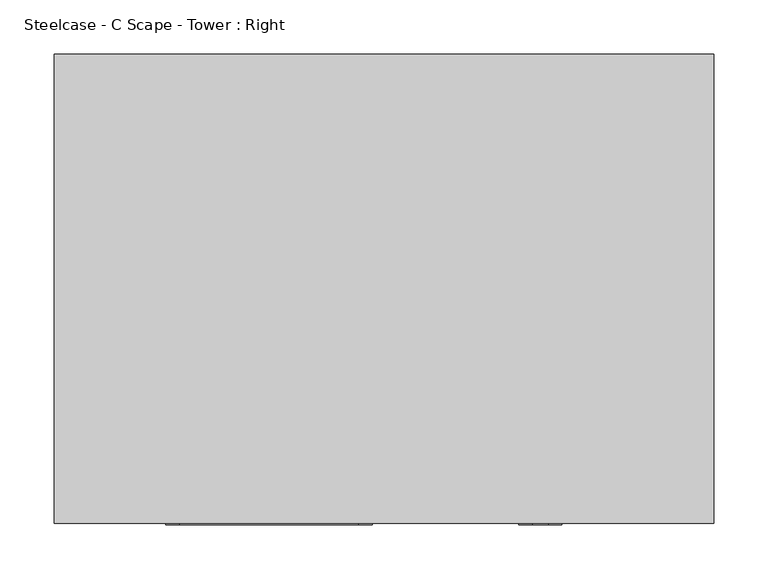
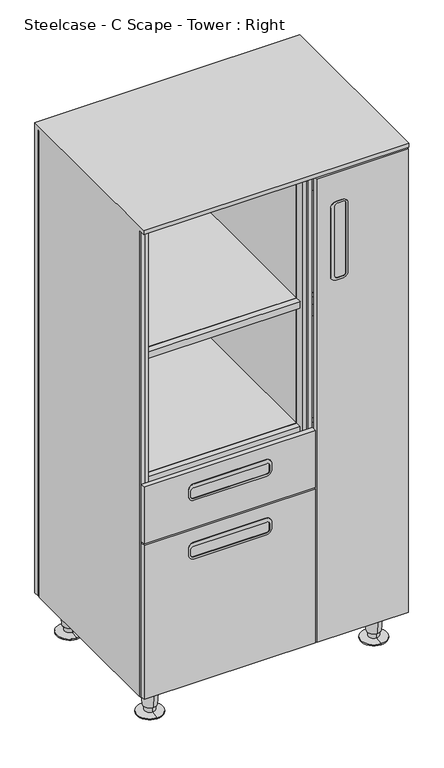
"""IFC4 building model written with IfcOpenShell, lengths in millimetres: furniture geometry, Steelcase - C Scape - Tower : Right."""

import ifcopenshell
import ifcopenshell.guid

model = None  # the IFC model being written
_history = None  # IfcOwnerHistory: only IFC2X3 demands one
_inside = {}  # id of a spatial element -> (the spatial element, [elements in it])
_under = {}  # id of a project, library or spatial element -> (it, [spatial elements below it])
_declared = {}  # id of a project -> (the project, [libraries it declares])
_typed = {}  # id of a type object -> (the type object, [elements of that type])
_made_of = {}  # id of a material, layer set ... -> (it, [elements and type objects made of it])


def new_model(schema):
    """Start an empty IFC model of exactly this schema.

    Asked for "IFC4X3", IfcOpenShell would pick the latest addendum, in which some entities
    have other attributes; the version numbers below select the first issue.
    IFC2X3 requires an IfcOwnerHistory on every rooted entity: one is made here for all.
    """
    global model, _history
    if schema == "IFC4X3":
        model = ifcopenshell.file(schema_version=(4, 3, 0, 0))
    else:
        model = ifcopenshell.file(schema=schema)
    _inside.clear()
    _under.clear()
    _declared.clear()
    _typed.clear()
    _made_of.clear()
    _history = None
    if model.schema == "IFC2X3":
        org = make("IfcOrganization", Name="unknown")
        user = make(
            "IfcPersonAndOrganization",
            ThePerson=make("IfcPerson", FamilyName="unknown"),
            TheOrganization=org,
        )
        app = make(
            "IfcApplication",
            ApplicationDeveloper=org,
            Version="unknown",
            ApplicationFullName="unknown",
            ApplicationIdentifier="unknown",
        )
        _history = make(
            "IfcOwnerHistory",
            OwningUser=user,
            OwningApplication=app,
            ChangeAction="ADDED",
            CreationDate=0,
        )
    return model


def make(cls, **values):
    """One entity of the class cls with the attributes given. An attribute that is None is left unset."""
    return model.create_entity(
        cls, **{name: value for name, value in values.items() if value is not None}
    )


def rooted(cls, **values):
    """An entity with a GlobalId (a new one), such as an element, a storey or a relation."""
    return make(cls, GlobalId=ifcopenshell.guid.new(), OwnerHistory=_history, **values)


def si_unit(unit_type, name, prefix=None):
    """IfcSIUnit, for example si_unit("LENGTHUNIT", "METRE", prefix="MILLI")."""
    return make("IfcSIUnit", UnitType=unit_type, Prefix=prefix, Name=name)


def assignment(units):
    """IfcUnitAssignment: the units of a project."""
    return None if units is None else make("IfcUnitAssignment", Units=units)


def point(xyz):
    """IfcCartesianPoint."""
    return None if xyz is None else make("IfcCartesianPoint", Coordinates=xyz)


def direction(xyz):
    """IfcDirection."""
    return None if xyz is None else make("IfcDirection", DirectionRatios=xyz)


def frame(location, z_axis=None, x_axis=None):
    """IfcAxis2Placement3D, a coordinate frame: its origin and axes. An axis left out is left unset."""
    return make(
        "IfcAxis2Placement3D",
        Location=point(location),
        Axis=direction(z_axis),
        RefDirection=direction(x_axis),
    )


def frame_2d(location, x_axis=None):
    """IfcAxis2Placement2D, a coordinate frame in the plane: its origin and x axis."""
    return make(
        "IfcAxis2Placement2D", Location=point(location), RefDirection=direction(x_axis)
    )


def origin():
    """The frame at (0, 0, 0) with its axes left unset."""
    return frame((0.0, 0.0, 0.0))


def place(relative_to, where):
    """IfcLocalPlacement: puts the frame where relative to a parent placement (None: the world)."""
    return make(
        "IfcLocalPlacement", PlacementRelTo=relative_to, RelativePlacement=where
    )


def context(
    kind, dimensions, precision=None, world=None, true_north=None, identifier=None
):
    """IfcGeometricRepresentationContext, for example the 3D "Model" context."""
    return make(
        "IfcGeometricRepresentationContext",
        ContextIdentifier=identifier,
        ContextType=kind,
        CoordinateSpaceDimension=dimensions,
        Precision=precision,
        WorldCoordinateSystem=world,
        TrueNorth=true_north,
    )


def project(units=None, contexts=None):
    """IfcProject with its units and contexts."""
    return rooted(
        "IfcProject",
        Name="project",
        RepresentationContexts=contexts,
        UnitsInContext=assignment(units),
    )


def spatial(cls, under=None, at=None, **own):
    """A site, building, storey or space (cls), placed at a placement, below another one or the project."""
    s = rooted(cls, ObjectPlacement=at, **own)
    if under is not None:
        _under.setdefault(under.id(), (under, []))[1].append(s)
    return s


def polyline(points):
    """IfcPolyline through the points."""
    return make("IfcPolyline", Points=[point(p) for p in points])


def circle_curve(where, radius):
    """IfcCircle in the frame where."""
    return make("IfcCircle", Position=where, Radius=radius)


def trimmed(basis, trim1, trim2, sense, master):
    """IfcTrimmedCurve: the piece of a basis curve between two trims."""
    return make(
        "IfcTrimmedCurve",
        BasisCurve=basis,
        Trim1=trim1,
        Trim2=trim2,
        SenseAgreement=sense,
        MasterRepresentation=master,
    )


def segment(curve, same_sense, transition):
    """IfcCompositeCurveSegment."""
    return make(
        "IfcCompositeCurveSegment",
        Transition=transition,
        SameSense=same_sense,
        ParentCurve=curve,
    )


def composite_curve(segments, self_intersect=None):
    """IfcCompositeCurve: segments joined end to end."""
    return make("IfcCompositeCurve", Segments=segments, SelfIntersect=self_intersect)


def outline(outer, holes=None, kind="AREA"):
    """IfcArbitraryClosedProfileDef: a profile drawn as a closed curve; with holes, ...WithVoids."""
    if holes is None:
        return make("IfcArbitraryClosedProfileDef", ProfileType=kind, OuterCurve=outer)
    return make(
        "IfcArbitraryProfileDefWithVoids",
        ProfileType=kind,
        OuterCurve=outer,
        InnerCurves=holes,
    )


def extrude(swept, where, along, depth):
    """IfcExtrudedAreaSolid: the profile swept, set in the frame where, extruded along a direction by depth."""
    return make(
        "IfcExtrudedAreaSolid",
        SweptArea=swept,
        Position=where,
        ExtrudedDirection=direction(along),
        Depth=depth,
    )


def faces_of(points, faces, orient=None, outer=None):
    """IfcFace entities. A face is a list of loops; a loop is a list of indices into points, from 0.

    orient and outer hold one flag for each loop. By default every Orientation is true, the
    first loop of a face is its IfcFaceOuterBound and the others are IfcFaceBound.
    """
    made = []
    for i, loops in enumerate(faces):
        bounds = []
        for j, loop in enumerate(loops):
            is_outer = j == 0 if outer is None else outer[i][j]
            bounds.append(
                make(
                    "IfcFaceOuterBound" if is_outer else "IfcFaceBound",
                    Bound=make("IfcPolyLoop", Polygon=[points[k] for k in loop]),
                    Orientation=True if orient is None else orient[i][j],
                )
            )
        made.append(make("IfcFace", Bounds=bounds))
    return made


def faceted_brep(points, faces, orient=None, outer=None, voids=None):
    """IfcFacetedBrep: a solid bounded by flat faces; with voids (closed shells), ...WithVoids."""
    shared = [point(p) for p in points]
    hull = make("IfcClosedShell", CfsFaces=faces_of(shared, faces, orient, outer))
    if voids is None:
        return make("IfcFacetedBrep", Outer=hull)
    return make(
        "IfcFacetedBrepWithVoids",
        Outer=hull,
        Voids=[
            make(cls, CfsFaces=faces_of(shared, fs, o, b)) for cls, fs, o, b in voids
        ],
    )


def shape(context_of_items, identifier, shape_type, items):
    """IfcShapeRepresentation: the items that make up one representation, for example the "Body"."""
    return make(
        "IfcShapeRepresentation",
        ContextOfItems=context_of_items,
        RepresentationIdentifier=identifier,
        RepresentationType=shape_type,
        Items=items,
    )


def source(mapping_origin, context_of_items, identifier, shape_type, items):
    """IfcRepresentationMap: a shape defined once, which mapped items show again and again."""
    return make(
        "IfcRepresentationMap",
        MappingOrigin=mapping_origin,
        MappedRepresentation=shape(context_of_items, identifier, shape_type, items),
    )


def transform(
    local_origin,
    x_axis=None,
    y_axis=None,
    z_axis=None,
    scale=None,
    scale2=None,
    scale3=None,
    uniform=True,
):
    """IfcCartesianTransformationOperator3D, or its non-uniform kind. x_axis, y_axis, z_axis: its Axis1, 2, 3."""
    if uniform:
        return make(
            "IfcCartesianTransformationOperator3D",
            Axis1=direction(x_axis),
            Axis2=direction(y_axis),
            LocalOrigin=point(local_origin),
            Scale=scale,
            Axis3=direction(z_axis),
        )
    return make(
        "IfcCartesianTransformationOperator3DnonUniform",
        Axis1=direction(x_axis),
        Axis2=direction(y_axis),
        LocalOrigin=point(local_origin),
        Scale=scale,
        Axis3=direction(z_axis),
        Scale2=scale2,
        Scale3=scale3,
    )


def mapped(mapping_source, mapping_target):
    """IfcMappedItem: shows the shape of a source again, moved by a transform."""
    return make(
        "IfcMappedItem", MappingSource=mapping_source, MappingTarget=mapping_target
    )


def made_of(thing, what):
    """Note that an element or type object is made of a material, layer set ...; save() writes the relation."""
    if what is not None:
        _made_of.setdefault(what.id(), (what, []))[1].append(thing)
    return thing


def element(
    cls,
    number,
    at=None,
    inside=None,
    cuts=None,
    type_object=None,
    material=None,
    context=None,
    identifier="Body",
    shape_type=None,
    held_by="IfcProductDefinitionShape",
    body=None,
    shapes=None,
    **own,
):
    """One element of the class cls, such as IfcWall. Its Tag is "e" and its number.

    at: its placement. inside: the storey or other place that contains it. cuts: it is an
    opening in that element (IfcRelVoidsElement). A single representation is given by context,
    identifier, shape_type and body (its items); several are given by shapes. held_by: the class
    of the entity that holds the representations. save() writes the other relations.
    """
    e = rooted(cls, Tag="e%d" % number, ObjectPlacement=at, **own)
    if body is not None:
        shapes = [shape(context, identifier, shape_type, body)]
    if shapes is not None:
        e.Representation = make(held_by, Representations=shapes)
    if inside is not None:
        _inside.setdefault(inside.id(), (inside, []))[1].append(e)
    if cuts is not None:
        rooted(
            "IfcRelVoidsElement", RelatingBuildingElement=cuts, RelatedOpeningElement=e
        )
    if type_object is not None:
        _typed.setdefault(type_object.id(), (type_object, []))[1].append(e)
    return made_of(e, material)


def aggregate(whole, parts):
    """IfcRelAggregates: a whole, such as a stair, and the parts it consists of."""
    return rooted("IfcRelAggregates", RelatingObject=whole, RelatedObjects=parts)


def save(model, path):
    """Write the relations noted so far, then the file.

    IfcRelAggregates (storeys below a building ...), IfcRelContainedInSpatialStructure (elements
    in a storey), IfcRelDefinesByType, IfcRelAssociatesMaterial and IfcRelDeclares: one each for
    every whole, place, type object, material and project.
    """
    for whole, parts in _under.values():
        aggregate(whole, parts)
    for where, things in _inside.values():
        rooted(
            "IfcRelContainedInSpatialStructure",
            RelatedElements=things,
            RelatingStructure=where,
        )
    for kind, things in _typed.values():
        rooted("IfcRelDefinesByType", RelatedObjects=things, RelatingType=kind)
    for what, things in _made_of.values():
        rooted("IfcRelAssociatesMaterial", RelatedObjects=things, RelatingMaterial=what)
    for by, libraries in _declared.values():
        rooted("IfcRelDeclares", RelatingContext=by, RelatedDefinitions=libraries)
    model.write(path)


def plane_surface(at):
    """IfcPlane: the flat surface through the origin of the frame at, square to its z axis."""
    return make("IfcPlane", Position=at)


def cylinder_surface(at, radius):
    """IfcCylindricalSurface: all points at the distance radius from the z axis of the frame at."""
    return make("IfcCylindricalSurface", Position=at, Radius=radius)


def revolved_surface(curve, axis_point, axis_direction):
    """IfcSurfaceOfRevolution: the curve turned about the line through axis_point along axis_direction."""
    return make(
        "IfcSurfaceOfRevolution",
        SweptCurve=make("IfcArbitraryOpenProfileDef", ProfileType="CURVE", Curve=curve),
        AxisPosition=make("IfcAxis1Placement", Location=point(axis_point), Axis=direction(axis_direction)),
    )


def advanced_brep(points, edges, surfaces, faces):
    """IfcAdvancedBrep: a solid bounded by faces that lie on surfaces and meet in shared edges.

    An edge is (start, end): straight between two places in points (the first is 0);
    or (start, end, curve); or (start, end, curve, False) where it runs against its curve.
    A face is (place in surfaces, loops), or (place, loops, False) where it looks against
    its surface's normal. A loop lists edges by number (the first is 1), with a minus sign
    where the edge is run from its end to its start. The first loop is the outer one.
    """
    corners = [point(p) for p in points]
    vertices = [make("IfcVertexPoint", VertexGeometry=c) for c in corners]
    made = []
    for start, end, *more in edges:
        made.append(
            make(
                "IfcEdgeCurve",
                EdgeStart=vertices[start],
                EdgeEnd=vertices[end],
                EdgeGeometry=more[0] if more else make("IfcPolyline", Points=[corners[start], corners[end]]),
                SameSense=more[1] if len(more) > 1 else True,
            )
        )
    hull = []
    for where, loops, *sense in faces:
        bounds = []
        for j, loop in enumerate(loops):
            ring = [make("IfcOrientedEdge", EdgeElement=made[abs(k) - 1], Orientation=k > 0) for k in loop]
            bounds.append(
                make(
                    "IfcFaceOuterBound" if j == 0 else "IfcFaceBound",
                    Bound=make("IfcEdgeLoop", EdgeList=ring),
                    Orientation=True,
                )
            )
        hull.append(make("IfcAdvancedFace", Bounds=bounds, FaceSurface=surfaces[where], SameSense=sense[0] if sense else True))
    return make("IfcAdvancedBrep", Outer=make("IfcClosedShell", CfsFaces=hull))


def steelcase_c_scape_tower_right_c0f2066f(model_context):
    return source(origin(), model_context, "Body", "SolidModel", [
        extrude(outline(polyline([(11.4553938, -397.129), (21.4631163, -397.129), (21.4631163, -412.115), (9.415402, -419.3540543), (0.2711927, -419.3540543), (0.2711927, -414.9089767), (11.4553938, -414.9089767), (11.4553938, -397.129)])), frame((0.0, 0.0, 76.2), z_axis=(0.0, 0.0, 1.0), x_axis=(1.0, 0.0, 0.0)), (0.0, 0.0, 1.0), 1132.84),
        extrude(outline(polyline([(595.3505674, -397.129), (595.3505674, -414.9089767), (606.5347685, -414.9089767), (606.5347685, -419.3540543), (597.3905592, -419.3540543), (585.342845, -412.115), (585.342845, -397.129), (595.3505674, -397.129)])), frame((0.0, 0.0, 76.2), z_axis=(0.0, 0.0, 1.0), x_axis=(1.0, 0.0, 0.0)), (0.0, 0.0, 1.0), 1132.84),
        extrude(outline(polyline([(11.4553938, -35.9409322), (11.4553938, -18.1609554), (0.2711927, -18.1609554), (0.2711927, -13.7158779), (9.415402, -13.7158779), (21.4631163, -20.9549322), (21.4631163, -35.9409322), (11.4553938, -35.9409322)])), frame((0.0, 0.0, 76.2), z_axis=(0.0, 0.0, 1.0), x_axis=(1.0, 0.0, 0.0)), (0.0, 0.0, 1.0), 1132.84),
        extrude(outline(polyline([(595.3505674, -35.9409322), (585.342845, -35.9409322), (585.342845, -20.9549322), (597.3905592, -13.7158779), (606.5347685, -13.7158779), (606.5347685, -18.1609554), (595.3505674, -18.1609554), (595.3505674, -35.9409322)])), frame((0.0, 0.0, 76.2), z_axis=(0.0, 0.0, 1.0), x_axis=(1.0, 0.0, 0.0)), (0.0, 0.0, 1.0), 1132.84),
        faceted_brep([(607.695, 0.0, 1219.2), (-0.635, 0.0, 1219.2), (-0.635, -433.0699322, 1219.2), (607.695, -433.0699322, 1219.2), (607.695, -433.0699322, 1209.04), (-0.635, -433.0699322, 1209.04), (-0.635, -414.9089767, 1209.04), (11.4553938, -414.9089767, 1209.04), (11.4553938, -397.129, 1209.04), (21.5898062, -397.129, 1209.04), (21.5898062, -35.941, 1209.04), (11.4553938, -35.941, 1209.04), (11.4553938, -18.1610281, 1209.04), (-0.635, -18.1610281, 1209.04), (-0.635, -10.540999, 1209.04), (607.695, -10.540999, 1209.04), (607.695, -18.1610281, 1209.04), (595.3505674, -18.1610281, 1209.04), (595.3505674, -35.941, 1209.04), (585.3431163, -35.941, 1209.04), (585.3431163, -397.129, 1209.04), (595.3505674, -397.129, 1209.04), (595.3505674, -414.9089767, 1209.04), (607.695, -414.9089767, 1209.04), (607.822, 0.0, 76.2), (-0.508, 0.0, 76.2), (-0.635, -10.540999, 76.2), (-0.635, -18.1610281, 76.2), (-0.635, -414.9089767, 76.2), (607.695, -414.9089767, 76.2), (607.695, -18.1610281, 76.2), (607.695, -10.540999, 76.2), (11.4553938, -18.1610281, 76.2), (11.4553938, -35.941, 76.2), (21.5898062, -35.941, 76.2), (21.5898062, -397.129, 76.2), (11.4553938, -397.129, 76.2), (11.4553938, -414.9089767, 76.2), (595.3505674, -18.1610281, 76.2), (595.3505674, -414.9089767, 76.2), (595.3505674, -397.129, 76.2), (585.3431163, -397.129, 76.2), (585.3431163, -35.941, 76.2), (595.3505674, -35.941, 76.2)], [[[0, 1, 2, 3]], [[4, 5, 6, 7, 8, 9, 10, 11, 12, 13, 14, 15, 16, 17, 18, 19, 20, 21, 22, 23]], [[1, 0, 24, 25]], [[2, 1, 25, 26, 14, 13, 27, 28, 6, 5]], [[3, 2, 5, 4]], [[24, 0, 3, 4, 23, 29, 30, 16, 15, 31]], [[32, 33, 34, 35, 36, 37, 28, 27]], [[38, 30, 29, 39, 40, 41, 42, 43]], [[32, 27, 13, 12]], [[28, 37, 7, 6]], [[37, 36, 8, 7]], [[36, 35, 9, 8]], [[35, 34, 10, 9]], [[34, 33, 11, 10]], [[33, 32, 12, 11]], [[38, 43, 18, 17]], [[43, 42, 19, 18]], [[42, 41, 20, 19]], [[41, 40, 21, 20]], [[40, 39, 22, 21]], [[39, 29, 23, 22]], [[30, 38, 17, 16]], [[24, 31, 26, 25]], [[26, 31, 15, 14]]]),
        extrude(outline(composite_curve([segment(trimmed(circle_curve(frame_2d((394.970453, 279.9224102)), 12.7), [point((382.270453, 279.9224102))], [point((394.970453, 292.6224102))], False, "CARTESIAN"), True, "CONTINUOUS"), segment(polyline([(394.970453, 292.6224102), (409.5749879, 292.6224102)]), True, "CONTINUOUS"), segment(trimmed(circle_curve(frame_2d((409.5749879, 279.9224102)), 12.7), [point((409.5749879, 292.6224102))], [point((422.2749879, 279.9224102))], False, "CARTESIAN"), True, "CONTINUOUS"), segment(polyline([(422.2749879, 279.9224102), (422.2749879, 114.8223618)]), True, "CONTINUOUS"), segment(trimmed(circle_curve(frame_2d((409.5749879, 114.8223618)), 12.7), [point((422.2749879, 114.8223618))], [point((409.5749879, 102.1223618))], False, "CARTESIAN"), True, "CONTINUOUS"), segment(polyline([(409.5749879, 102.1223618), (394.970453, 102.1223618)]), True, "CONTINUOUS"), segment(trimmed(circle_curve(frame_2d((394.970453, 114.8223618)), 12.7), [point((394.970453, 102.1223618))], [point((382.270453, 114.8223618))], False, "CARTESIAN"), True, "CONTINUOUS"), segment(polyline([(382.270453, 114.8223618), (382.270453, 279.9224102)]), True, "CONTINUOUS")], self_intersect=False), holes=[composite_curve([segment(trimmed(circle_curve(frame_2d((406.146515, 281.4463966)), 6.35), [point((412.496515, 281.4463966))], [point((406.146515, 287.7963966))], True, "CARTESIAN"), True, "CONTINUOUS"), segment(polyline([(406.146515, 287.7963966), (393.4463212, 287.7963966)]), True, "CONTINUOUS"), segment(trimmed(circle_curve(frame_2d((393.4463212, 281.4463966)), 6.35), [point((393.4463212, 287.7963966))], [point((387.0963212, 281.4463966))], True, "CARTESIAN"), True, "CONTINUOUS"), segment(polyline([(387.0963212, 281.4463966), (387.0963212, 113.2983753)]), True, "CONTINUOUS"), segment(trimmed(circle_curve(frame_2d((393.4463212, 113.2983753)), 6.35), [point((387.0963212, 113.2983753))], [point((393.4463212, 106.9483753))], True, "CARTESIAN"), True, "CONTINUOUS"), segment(polyline([(393.4463212, 106.9483753), (406.146515, 106.9483753)]), True, "CONTINUOUS"), segment(trimmed(circle_curve(frame_2d((406.146515, 113.2983753)), 6.35), [point((406.146515, 106.9483753))], [point((412.496515, 113.2983753))], True, "CARTESIAN"), True, "CONTINUOUS"), segment(polyline([(412.496515, 113.2983753), (412.496515, 281.4463966)]), True, "CONTINUOUS")], self_intersect=False)]), frame((0.0, -434.3400581, 0.0), z_axis=(0.0, 1.0, 0.0), x_axis=(0.0, 0.0, 1.0)), (0.0, 0.0, 1.0), 1.270126),
        extrude(outline(composite_curve([segment(trimmed(circle_curve(frame_2d((537.2104627, 279.9224102)), 12.7), [point((524.5104627, 279.9224102))], [point((537.2104627, 292.6224102))], False, "CARTESIAN"), True, "CONTINUOUS"), segment(polyline([(537.2104627, 292.6224102), (551.8149976, 292.6224102)]), True, "CONTINUOUS"), segment(trimmed(circle_curve(frame_2d((551.8149976, 279.9224102)), 12.7), [point((551.8149976, 292.6224102))], [point((564.5149976, 279.9224102))], False, "CARTESIAN"), True, "CONTINUOUS"), segment(polyline([(564.5149976, 279.9224102), (564.5149976, 114.8223618)]), True, "CONTINUOUS"), segment(trimmed(circle_curve(frame_2d((551.8149976, 114.8223618)), 12.7), [point((564.5149976, 114.8223618))], [point((551.8149976, 102.1223618))], False, "CARTESIAN"), True, "CONTINUOUS"), segment(polyline([(551.8149976, 102.1223618), (537.2104627, 102.1223618)]), True, "CONTINUOUS"), segment(trimmed(circle_curve(frame_2d((537.2104627, 114.8223618)), 12.7), [point((537.2104627, 102.1223618))], [point((524.5104627, 114.8223618))], False, "CARTESIAN"), True, "CONTINUOUS"), segment(polyline([(524.5104627, 114.8223618), (524.5104627, 279.9224102)]), True, "CONTINUOUS")], self_intersect=False), holes=[composite_curve([segment(trimmed(circle_curve(frame_2d((548.3865247, 281.4463966)), 6.35), [point((554.7365247, 281.4463966))], [point((548.3865247, 287.7963966))], True, "CARTESIAN"), True, "CONTINUOUS"), segment(polyline([(548.3865247, 287.7963966), (535.6863309, 287.7963966)]), True, "CONTINUOUS"), segment(trimmed(circle_curve(frame_2d((535.6863309, 281.4463966)), 6.35), [point((535.6863309, 287.7963966))], [point((529.3363309, 281.4463966))], True, "CARTESIAN"), True, "CONTINUOUS"), segment(polyline([(529.3363309, 281.4463966), (529.3363309, 113.2983753)]), True, "CONTINUOUS"), segment(trimmed(circle_curve(frame_2d((535.6863309, 113.2983753)), 6.35), [point((529.3363309, 113.2983753))], [point((535.6863309, 106.9483753))], True, "CARTESIAN"), True, "CONTINUOUS"), segment(polyline([(535.6863309, 106.9483753), (548.3865247, 106.9483753)]), True, "CONTINUOUS"), segment(trimmed(circle_curve(frame_2d((548.3865247, 113.2983753)), 6.35), [point((548.3865247, 106.9483753))], [point((554.7365247, 113.2983753))], True, "CARTESIAN"), True, "CONTINUOUS"), segment(polyline([(554.7365247, 113.2983753), (554.7365247, 281.4463966)]), True, "CONTINUOUS")], self_intersect=False)]), frame((0.0, -434.3400581, 0.0), z_axis=(0.0, 1.0, 0.0), x_axis=(0.0, 0.0, 1.0)), (0.0, 0.0, 1.0), 1.270126),
        extrude(outline(polyline([(393.0646434, -422.5290058), (393.0646434, -433.0699322), (0.127, -433.0699322), (0.127, -422.5290058), (393.0646434, -422.5290058)])), frame((0.0, 0.0, 79.374997), z_axis=(0.0, 0.0, 1.0), x_axis=(1.0, 0.0, 0.0)), (0.0, 0.0, 1.0), 374.6500151),
        extrude(outline(polyline([(393.0646434, -422.5290058), (393.0646434, -433.0699322), (0.127, -433.0699322), (0.127, -422.5290058), (393.0646434, -422.5290058)])), frame((0.0, 0.0, 457.2), z_axis=(0.0, 0.0, 1.0), x_axis=(1.0, 0.0, 0.0)), (0.0, 0.0, 1.0), 139.0649855),
        extrude(outline(polyline([(606.933, -422.5290058), (606.933, -433.0699322), (396.2398527, -433.0699322), (396.2398527, -422.5290058), (606.933, -422.5290058)])), frame((0.0, 0.0, 79.374997), z_axis=(0.0, 0.0, 1.0), x_axis=(1.0, 0.0, 0.0)), (0.0, 0.0, 1.0), 1126.4899885),
        faceted_brep([(21.5898062, -397.129, 92.7100024), (21.5898062, -35.941, 92.7100024), (21.5898062, -35.941, 76.2), (21.5898062, -397.129, 76.2), (21.5898062, -397.1289574, 903.7827702), (21.5898062, -35.941, 903.7827702), (21.5898062, -35.941, 887.2727411), (21.5898062, -397.1289574, 887.2727411), (21.5898062, -397.129, 599.4400097), (21.5898062, -35.941, 599.4400097), (21.5898062, -35.941, 583.8444137), (21.5898062, -397.129, 583.8444137), (585.4699225, -397.129, 92.7100024), (585.4699225, -397.129, 76.2), (585.4699225, -35.941, 76.2), (585.4699225, -35.941, 92.7100024), (585.4699225, -397.1289574, 903.7827702), (585.4699225, -397.1289574, 887.2727411), (585.4699225, -35.941, 887.2727411), (585.4699225, -35.941, 903.7827702), (585.4699225, -397.129, 599.4400097), (585.4699225, -397.129, 583.8444137), (585.4699225, -35.941, 583.8444137), (585.4699225, -35.941, 599.4400097), (370.967, -397.129, 92.7100024), (370.967, -35.941, 92.7100024), (393.1918062, -35.941, 92.7100024), (393.1918062, -397.129, 92.7100024), (393.1918062, -397.129, 583.8444137), (393.1918062, -397.129, 599.4400097), (393.1918062, -397.129, 887.2727411), (393.1918062, -397.129, 903.7827702), (393.1918062, -397.129, 1192.5299709), (370.967, -397.129, 1192.5299709), (370.967, -397.129, 903.7827702), (370.967, -397.129, 887.2727411), (370.967, -397.129, 599.4400097), (370.967, -397.129, 583.8444137), (370.967, -35.941, 903.7827702), (393.1918062, -35.941, 903.7827702), (370.967, -35.941, 887.2727411), (393.1918062, -35.941, 887.2727411), (370.967, -35.941, 599.4400097), (393.1918062, -35.941, 599.4400097), (370.967, -35.941, 583.8444137), (393.1918062, -35.941, 583.8444137), (393.1918062, -18.1610281, 1192.5299709), (370.967, -18.1610281, 1192.5299709), (370.967, -18.1610281, 92.7100024), (393.1918062, -18.1610281, 92.7100024)], [[[0, 1, 2, 3]], [[4, 5, 6, 7]], [[8, 9, 10, 11]], [[12, 13, 14, 15]], [[16, 17, 18, 19]], [[20, 21, 22, 23]], [[1, 0, 24, 25]], [[12, 15, 26, 27]], [[2, 1, 25, 26, 15, 14]], [[3, 2, 14, 13]], [[0, 3, 13, 12, 27, 28, 21, 20, 29, 30, 17, 16, 31, 32, 33, 34, 4, 7, 35, 36, 8, 11, 37, 24]], [[5, 4, 34, 38]], [[16, 19, 39, 31]], [[6, 5, 38, 40]], [[19, 18, 41, 39]], [[7, 6, 40, 35]], [[18, 17, 30, 41]], [[9, 8, 36, 42]], [[20, 23, 43, 29]], [[10, 9, 42, 44]], [[23, 22, 45, 43]], [[11, 10, 44, 37]], [[22, 21, 28, 45]], [[46, 47, 33, 32]], [[48, 49, 26, 25]], [[47, 46, 49, 48]], [[33, 47, 48, 25, 24, 37, 44, 42, 36, 35, 40, 38, 34]], [[46, 32, 31, 39, 41, 30, 29, 43, 45, 28, 27, 26, 49]]]),
        faceted_brep([(585.47, -35.9409109, 1209.0400097), (585.47, -35.9409109, 1192.5299806), (585.47, -21.7168217, 1192.5299806), (585.47, -21.7168217, 1209.0400097), (21.5898062, -35.9409109, 1209.0400097), (21.5898062, -21.7168217, 1209.0400097), (21.5898062, -21.7168217, 1192.5299806), (21.5898062, -35.9409109, 1192.5299806)], [[[0, 1, 2, 3]], [[4, 5, 6, 7]], [[1, 0, 4, 7]], [[2, 1, 7, 6]], [[3, 2, 6, 5]], [[0, 3, 5, 4]]]),
        faceted_brep([(585.47, -411.3529438, 1209.0400097), (585.47, -411.3529438, 1192.5299806), (585.47, -397.1289574, 1192.5299806), (585.47, -397.1289574, 1209.0400097), (585.47, -411.3529438, 599.4400097), (585.47, -411.3529438, 583.8444137), (585.47, -397.1289574, 583.8444137), (585.47, -397.1289574, 599.4400097), (585.47, -411.3529438, 92.7100024), (585.47, -411.3529438, 76.2), (585.47, -397.1289574, 76.2), (585.47, -397.1289574, 92.7100024), (585.47, -411.3529438, 903.7827702), (585.47, -411.3529438, 887.2727411), (585.47, -397.1289574, 887.2727411), (585.47, -397.1289574, 903.7827702), (21.5898062, -411.3529438, 1209.0400097), (21.5898062, -397.1289574, 1209.0400097), (21.5898062, -397.1289574, 1192.5299806), (21.5898062, -411.3529438, 1192.5299806), (21.5898062, -411.3529438, 599.4400097), (21.5898062, -397.1289574, 599.4400097), (21.5898062, -397.1289574, 583.8444137), (21.5898062, -411.3529438, 583.8444137), (21.5898062, -411.3529438, 92.7100024), (21.5898062, -397.1289574, 92.7100024), (21.5898062, -397.1289574, 76.2), (21.5898062, -411.3529438, 76.2), (21.5898062, -411.3529438, 903.7827702), (21.5898062, -397.1289574, 903.7827702), (21.5898062, -397.1289574, 887.2727411), (21.5898062, -411.3529438, 887.2727411), (393.1918062, -411.3529438, 1209.0400097), (393.1918062, -411.3529438, 1192.5299806), (370.967, -411.3529438, 1192.5299806), (370.967, -411.3529438, 1209.0400097), (393.1918062, -397.1289574, 1192.5299806), (370.967, -397.1289574, 1192.5299806), (393.1918062, -397.1289574, 903.7827702), (393.1918062, -397.1289574, 887.2727411), (393.1918062, -397.1289574, 599.4400097), (393.1918062, -397.1289574, 583.8444137), (393.1918062, -397.1289574, 92.71), (370.967, -397.1289574, 92.7100024), (370.967, -397.1289574, 583.8444137), (370.967, -397.1289574, 599.4400097), (370.967, -397.1289574, 887.2727411), (370.967, -397.1289574, 903.7827702), (370.967, -419.3540543, 1209.0400097), (380.653618, -419.3540543, 1209.0400097), (382.0794031, -418.5308579, 1209.0400097), (383.5051882, -419.3540543, 1209.0400097), (393.1918062, -419.3540543, 1209.0400097), (393.1918062, -411.3529438, 599.4400097), (393.1918062, -411.3529438, 583.8444137), (370.967, -411.3529438, 583.8444137), (370.967, -411.3529438, 599.4400097), (393.1918062, -411.3529438, 92.7100024), (370.967, -411.3529438, 92.71), (393.1918062, -411.3529438, 903.7827702), (393.1918062, -411.3529438, 887.2727411), (370.967, -411.3529438, 887.2727411), (370.967, -411.3529438, 903.7827702), (393.1918062, -419.3540543, 92.71), (383.5051882, -419.3540543, 92.71), (382.0794031, -418.5308579, 92.71), (380.653618, -419.3540543, 92.71), (370.967, -419.3540543, 92.71)], [[[0, 1, 2, 3]], [[4, 5, 6, 7]], [[8, 9, 10, 11]], [[12, 13, 14, 15]], [[16, 17, 18, 19]], [[20, 21, 22, 23]], [[24, 25, 26, 27]], [[28, 29, 30, 31]], [[1, 0, 32, 33]], [[16, 19, 34, 35]], [[2, 1, 33, 36]], [[19, 18, 37, 34]], [[17, 3, 2, 36, 38, 15, 14, 39, 40, 7, 6, 41, 42, 11, 10, 26, 25, 43, 44, 22, 21, 45, 46, 30, 29, 47, 37, 18]], [[0, 3, 17, 16, 35, 48, 49, 50, 51, 52, 32]], [[5, 4, 53, 54]], [[20, 23, 55, 56]], [[6, 5, 54, 41]], [[23, 22, 44, 55]], [[4, 7, 40, 53]], [[21, 20, 56, 45]], [[9, 8, 57, 58, 24, 27]], [[10, 9, 27, 26]], [[8, 11, 42, 57]], [[25, 24, 58, 43]], [[13, 12, 59, 60]], [[28, 31, 61, 62]], [[14, 13, 60, 39]], [[31, 30, 46, 61]], [[12, 15, 38, 59]], [[29, 28, 62, 47]], [[63, 64, 65, 66, 67, 58, 57]], [[48, 35, 34, 37, 47, 62, 61, 46, 45, 56, 55, 44, 43, 58, 67]], [[64, 51, 50, 65]], [[52, 51, 64, 63]], [[32, 52, 63, 57, 42, 41, 54, 53, 40, 39, 60, 59, 38, 36, 33]], [[49, 48, 67, 66]], [[49, 66, 65, 50]]]),
        faceted_brep([(585.47, -35.9409109, 599.4400097), (585.47, -35.9409109, 583.8444137), (585.47, -21.7168217, 583.8444137), (585.47, -21.7168217, 599.4400097), (21.5898062, -35.9409109, 599.4400097), (21.5898062, -21.7168217, 599.4400097), (21.5898062, -21.7168217, 583.8444137), (21.5898062, -35.9409109, 583.8444137)], [[[0, 1, 2, 3]], [[4, 5, 6, 7]], [[1, 0, 4, 7]], [[2, 1, 7, 6]], [[3, 2, 6, 5]], [[0, 3, 5, 4]]]),
        faceted_brep([(585.47, -35.9409109, 92.7100024), (585.47, -35.9409109, 76.2), (585.47, -21.7168217, 76.2), (585.47, -21.7168217, 92.7100024), (21.5898062, -35.9409109, 92.7100024), (21.5898062, -21.7168217, 92.7100024), (21.5898062, -21.7168217, 76.2), (21.5898062, -35.9409109, 76.2)], [[[0, 1, 2, 3]], [[4, 5, 6, 7]], [[1, 0, 4, 7]], [[2, 1, 7, 6]], [[3, 2, 6, 5]], [[0, 3, 5, 4]]]),
        faceted_brep([(585.47, -35.9409109, 903.7827702), (585.47, -35.9409109, 887.2727411), (585.47, -21.7168217, 887.2727411), (585.47, -21.7168217, 903.7827702), (21.5898062, -35.9409109, 903.7827702), (21.5898062, -21.7168217, 903.7827702), (21.5898062, -21.7168217, 887.2727411), (21.5898062, -35.9409109, 887.2727411)], [[[0, 1, 2, 3]], [[4, 5, 6, 7]], [[1, 0, 4, 7]], [[2, 1, 7, 6]], [[3, 2, 6, 5]], [[0, 3, 5, 4]]]),
        extrude(outline(composite_curve([segment(polyline([(958.2149855, 467.7409147), (1123.3150339, 467.7409147)]), True, "CONTINUOUS"), segment(trimmed(circle_curve(frame_2d((1123.3150339, 455.0409147)), 12.7), [point((1123.3150339, 467.7409147))], [point((1136.0150339, 455.0409147))], False, "CARTESIAN"), True, "CONTINUOUS"), segment(polyline([(1136.0150339, 455.0409147), (1136.0150339, 440.4363798)]), True, "CONTINUOUS"), segment(trimmed(circle_curve(frame_2d((1123.3150339, 440.4363798)), 12.7), [point((1136.0150339, 440.4363798))], [point((1123.3150339, 427.7363798))], False, "CARTESIAN"), True, "CONTINUOUS"), segment(polyline([(1123.3150339, 427.7363798), (958.2149855, 427.7363798)]), True, "CONTINUOUS"), segment(trimmed(circle_curve(frame_2d((958.2149855, 440.4363798)), 12.7), [point((958.2149855, 427.7363798))], [point((945.5149855, 440.4363798))], False, "CARTESIAN"), True, "CONTINUOUS"), segment(polyline([(945.5149855, 440.4363798), (945.5149855, 455.0409147)]), True, "CONTINUOUS"), segment(trimmed(circle_curve(frame_2d((958.2149855, 455.0409147)), 12.7), [point((945.5149855, 455.0409147))], [point((958.2149855, 467.7409147))], False, "CARTESIAN"), True, "CONTINUOUS")], self_intersect=False), holes=[composite_curve([segment(polyline([(956.690999, 437.5148527), (1124.8390203, 437.5148527)]), True, "CONTINUOUS"), segment(trimmed(circle_curve(frame_2d((1124.8390203, 443.8648527)), 6.35), [point((1124.8390203, 437.5148527))], [point((1131.1890203, 443.8648527))], True, "CARTESIAN"), True, "CONTINUOUS"), segment(polyline([(1131.1890203, 443.8648527), (1131.1890203, 456.5650465)]), True, "CONTINUOUS"), segment(trimmed(circle_curve(frame_2d((1124.8390203, 456.5650465)), 6.35), [point((1131.1890203, 456.5650465))], [point((1124.8390203, 462.9150465))], True, "CARTESIAN"), True, "CONTINUOUS"), segment(polyline([(1124.8390203, 462.9150465), (956.690999, 462.9150465)]), True, "CONTINUOUS"), segment(trimmed(circle_curve(frame_2d((956.690999, 456.5650465)), 6.35), [point((956.690999, 462.9150465))], [point((950.340999, 456.5650465))], True, "CARTESIAN"), True, "CONTINUOUS"), segment(polyline([(950.340999, 456.5650465), (950.340999, 443.8648527)]), True, "CONTINUOUS"), segment(trimmed(circle_curve(frame_2d((956.690999, 443.8648527)), 6.35), [point((950.340999, 443.8648527))], [point((956.690999, 437.5148527))], True, "CARTESIAN"), True, "CONTINUOUS")], self_intersect=False)]), frame((0.0, -434.3400581, 0.0), z_axis=(0.0, 1.0, 0.0), x_axis=(0.0, 0.0, 1.0)), (0.0, 0.0, 1.0), 1.270126),
        advanced_brep(
        [(560.3960034, -27.3797531, 0.0), (560.3960034, -86.6051932, 0.0), (560.3960034, -56.9924731, 0.0), (560.3960034, -27.3797531, 2.6912335), (560.3960034, -86.6051932, 2.6912335), (560.3960034, -45.0348855, 5.8043097), (560.3960034, -68.9500608, 5.8043097), (560.3960034, -44.3407082, 19.05), (560.3960034, -69.6442381, 19.05), (560.3960034, -41.6146125, 19.05), (560.3960034, -72.3703338, 19.05), (560.3960034, -37.6182952, 76.2), (560.3960034, -76.3666511, 76.2), (560.3960034, -56.9924731, 76.2)],
        [
            (0, 1, circle_curve(frame((560.3960034, -56.9924731, 0.0), z_axis=(0.0, 0.0, -1.0), x_axis=(0.0, -1.0, 0.0)), 29.61272)),
            (1, 2),
            (2, 0),
            (1, 0, circle_curve(frame((560.3960034, -56.9924731, 0.0), z_axis=(0.0, 0.0, -1.0), x_axis=(0.0, -1.0, 0.0)), 29.61272)),
            (3, 4, circle_curve(frame((560.3960034, -56.9924731, 2.6912335), z_axis=(0.0, 0.0, -1.0), x_axis=(0.0, -1.0, 0.0)), 29.61272)),
            (4, 1),
            (0, 3),
            (4, 3, circle_curve(frame((560.3960034, -56.9924731, 2.6912335), z_axis=(0.0, 0.0, -1.0), x_axis=(0.0, -1.0, 0.0)), 29.61272)),
            (5, 6, circle_curve(frame((560.3960034, -56.9924731, 5.8043097), z_axis=(0.0, 0.0, -1.0), x_axis=(0.0, -1.0, 0.0)), 11.9575877)),
            (6, 4),
            (3, 5),
            (6, 5, circle_curve(frame((560.3960034, -56.9924731, 5.8043097), z_axis=(0.0, 0.0, -1.0), x_axis=(0.0, -1.0, 0.0)), 11.9575877)),
            (7, 8, circle_curve(frame((560.3960034, -56.9924731, 19.05), z_axis=(0.0, 0.0, -1.0), x_axis=(0.0, -1.0, 0.0)), 12.6517649)),
            (8, 6),
            (5, 7),
            (8, 7, circle_curve(frame((560.3960034, -56.9924731, 19.05), z_axis=(0.0, 0.0, -1.0), x_axis=(0.0, -1.0, 0.0)), 12.6517649)),
            (9, 10, circle_curve(frame((560.3960034, -56.9924731, 19.05), z_axis=(0.0, 0.0, -1.0), x_axis=(0.0, -1.0, 0.0)), 15.3778607)),
            (10, 8),
            (7, 9),
            (10, 9, circle_curve(frame((560.3960034, -56.9924731, 19.05), z_axis=(0.0, 0.0, -1.0), x_axis=(0.0, -1.0, 0.0)), 15.3778607)),
            (11, 12, circle_curve(frame((560.3960034, -56.9924731, 76.2), z_axis=(0.0, 0.0, -1.0), x_axis=(0.0, -1.0, 0.0)), 19.374178)),
            (12, 10),
            (9, 11),
            (12, 11, circle_curve(frame((560.3960034, -56.9924731, 76.2), z_axis=(0.0, 0.0, -1.0), x_axis=(0.0, -1.0, 0.0)), 19.374178)),
            (13, 12),
            (11, 13),
        ],
        [
            plane_surface(frame((560.3960034, -56.9924731, 0.0), z_axis=(0.0, 0.0, -1.0), x_axis=(0.0, -1.0, 0.0))),
            cylinder_surface(frame((560.3960034, -56.9924731, -7.7422201), z_axis=(0.0, 0.0, 1.0), x_axis=(0.0, -1.0, 0.0)), 29.61272),
            revolved_surface(polyline([(560.3960034, -86.6051932, 2.6912335), (560.3960034, -68.9500608, 5.8043097)]), (560.3960034, -56.9924731, -7.7422201), (0.0, 0.0, 1.0)),
            revolved_surface(polyline([(560.3960034, -68.9500608, 5.8043097), (560.3960034, -69.6442381, 19.05)]), (560.3960034, -56.9924731, -7.7422201), (0.0, 0.0, 1.0)),
            plane_surface(frame((560.3960034, -56.9924731, 19.05), z_axis=(0.0, 0.0, -1.0), x_axis=(0.0, -1.0, 0.0))),
            revolved_surface(polyline([(560.3960034, -72.3703338, 19.05), (560.3960034, -76.3666511, 76.2)]), (560.3960034, -56.9924731, -7.7422201), (0.0, 0.0, 1.0)),
            plane_surface(frame((560.3960034, -56.9924731, 76.2), z_axis=(0.0, 0.0, 1.0), x_axis=(0.0, -1.0, 0.0))),
        ],
        [
            (0, [[1, 2, 3]]),
            (0, [[4, -3, -2]]),
            (1, [[5, 6, -1, 7]]),
            (1, [[8, -7, -4, -6]]),
            (2, [[9, 10, -5, 11]]),
            (2, [[12, -11, -8, -10]]),
            (3, [[13, 14, -9, 15]]),
            (3, [[16, -15, -12, -14]]),
            (4, [[17, 18, -13, 19]]),
            (4, [[20, -19, -16, -18]]),
            (5, [[21, 22, -17, 23]]),
            (5, [[24, -23, -20, -22]]),
            (6, [[25, -21, 26]]),
            (6, [[-26, -24, -25]]),
        ],
    ),
        advanced_brep(
        [(46.0460034, -27.3797531, 0.0), (46.0460034, -86.6051932, 0.0), (46.0460034, -56.9924731, 0.0), (46.0460034, -27.3797531, 2.6912335), (46.0460034, -86.6051932, 2.6912335), (46.0460034, -45.0348855, 5.8043097), (46.0460034, -68.9500608, 5.8043097), (46.0460034, -44.3407082, 19.05), (46.0460034, -69.6442381, 19.05), (46.0460034, -41.6146125, 19.05), (46.0460034, -72.3703338, 19.05), (46.0460034, -37.6182952, 76.2), (46.0460034, -76.3666511, 76.2), (46.0460034, -56.9924731, 76.2)],
        [
            (0, 1, circle_curve(frame((46.0460034, -56.9924731, 0.0), z_axis=(0.0, 0.0, -1.0), x_axis=(0.0, -1.0, 0.0)), 29.61272)),
            (1, 2),
            (2, 0),
            (1, 0, circle_curve(frame((46.0460034, -56.9924731, 0.0), z_axis=(0.0, 0.0, -1.0), x_axis=(0.0, -1.0, 0.0)), 29.61272)),
            (3, 4, circle_curve(frame((46.0460034, -56.9924731, 2.6912335), z_axis=(0.0, 0.0, -1.0), x_axis=(0.0, -1.0, 0.0)), 29.61272)),
            (4, 1),
            (0, 3),
            (4, 3, circle_curve(frame((46.0460034, -56.9924731, 2.6912335), z_axis=(0.0, 0.0, -1.0), x_axis=(0.0, -1.0, 0.0)), 29.61272)),
            (5, 6, circle_curve(frame((46.0460034, -56.9924731, 5.8043097), z_axis=(0.0, 0.0, -1.0), x_axis=(0.0, -1.0, 0.0)), 11.9575877)),
            (6, 4),
            (3, 5),
            (6, 5, circle_curve(frame((46.0460034, -56.9924731, 5.8043097), z_axis=(0.0, 0.0, -1.0), x_axis=(0.0, -1.0, 0.0)), 11.9575877)),
            (7, 8, circle_curve(frame((46.0460034, -56.9924731, 19.05), z_axis=(0.0, 0.0, -1.0), x_axis=(0.0, -1.0, 0.0)), 12.6517649)),
            (8, 6),
            (5, 7),
            (8, 7, circle_curve(frame((46.0460034, -56.9924731, 19.05), z_axis=(0.0, 0.0, -1.0), x_axis=(0.0, -1.0, 0.0)), 12.6517649)),
            (9, 10, circle_curve(frame((46.0460034, -56.9924731, 19.05), z_axis=(0.0, 0.0, -1.0), x_axis=(0.0, -1.0, 0.0)), 15.3778607)),
            (10, 8),
            (7, 9),
            (10, 9, circle_curve(frame((46.0460034, -56.9924731, 19.05), z_axis=(0.0, 0.0, -1.0), x_axis=(0.0, -1.0, 0.0)), 15.3778607)),
            (11, 12, circle_curve(frame((46.0460034, -56.9924731, 76.2), z_axis=(0.0, 0.0, -1.0), x_axis=(0.0, -1.0, 0.0)), 19.374178)),
            (12, 10),
            (9, 11),
            (12, 11, circle_curve(frame((46.0460034, -56.9924731, 76.2), z_axis=(0.0, 0.0, -1.0), x_axis=(0.0, -1.0, 0.0)), 19.374178)),
            (13, 12),
            (11, 13),
        ],
        [
            plane_surface(frame((46.0460034, -56.9924731, 0.0), z_axis=(0.0, 0.0, -1.0), x_axis=(0.0, -1.0, 0.0))),
            cylinder_surface(frame((46.0460034, -56.9924731, -7.7422201), z_axis=(0.0, 0.0, 1.0), x_axis=(0.0, -1.0, 0.0)), 29.61272),
            revolved_surface(polyline([(46.0460034, -86.6051932, 2.6912335), (46.0460034, -68.9500608, 5.8043097)]), (46.0460034, -56.9924731, -7.7422201), (0.0, 0.0, 1.0)),
            revolved_surface(polyline([(46.0460034, -68.9500608, 5.8043097), (46.0460034, -69.6442381, 19.05)]), (46.0460034, -56.9924731, -7.7422201), (0.0, 0.0, 1.0)),
            plane_surface(frame((46.0460034, -56.9924731, 19.05), z_axis=(0.0, 0.0, -1.0), x_axis=(0.0, -1.0, 0.0))),
            revolved_surface(polyline([(46.0460034, -72.3703338, 19.05), (46.0460034, -76.3666511, 76.2)]), (46.0460034, -56.9924731, -7.7422201), (0.0, 0.0, 1.0)),
            plane_surface(frame((46.0460034, -56.9924731, 76.2), z_axis=(0.0, 0.0, 1.0), x_axis=(0.0, -1.0, 0.0))),
        ],
        [
            (0, [[1, 2, 3]]),
            (0, [[4, -3, -2]]),
            (1, [[5, 6, -1, 7]]),
            (1, [[8, -7, -4, -6]]),
            (2, [[9, 10, -5, 11]]),
            (2, [[12, -11, -8, -10]]),
            (3, [[13, 14, -9, 15]]),
            (3, [[16, -15, -12, -14]]),
            (4, [[17, 18, -13, 19]]),
            (4, [[20, -19, -16, -18]]),
            (5, [[21, 22, -17, 23]]),
            (5, [[24, -23, -20, -22]]),
            (6, [[25, -21, 26]]),
            (6, [[-26, -24, -25]]),
        ],
    ),
        advanced_brep(
        [(560.3960034, -395.451637, 76.2), (560.3960034, -356.703281, 76.2), (560.3960034, -376.077459, 76.2), (560.3960034, -391.4553197, 19.05), (560.3960034, -360.6995983, 19.05), (560.3960034, -388.7292239, 19.05), (560.3960034, -363.4256941, 19.05), (560.3960034, -388.0350467, 5.8043097), (560.3960034, -364.1198713, 5.8043097), (560.3960034, -405.690179, 2.6912335), (560.3960034, -346.464739, 2.6912335), (560.3960034, -405.690179, 0.0), (560.3960034, -346.464739, 0.0), (560.3960034, -376.077459, 0.0)],
        [
            (0, 1, circle_curve(frame((560.3960034, -376.077459, 76.2), z_axis=(0.0, 0.0, 1.0), x_axis=(0.0, 1.0, 0.0)), 19.374178)),
            (1, 2),
            (2, 0),
            (1, 0, circle_curve(frame((560.3960034, -376.077459, 76.2), z_axis=(0.0, 0.0, 1.0), x_axis=(0.0, 1.0, 0.0)), 19.374178)),
            (3, 4, circle_curve(frame((560.3960034, -376.077459, 19.05), z_axis=(0.0, 0.0, 1.0), x_axis=(0.0, 1.0, 0.0)), 15.3778607)),
            (4, 1),
            (0, 3),
            (4, 3, circle_curve(frame((560.3960034, -376.077459, 19.05), z_axis=(0.0, 0.0, 1.0), x_axis=(0.0, 1.0, 0.0)), 15.3778607)),
            (5, 6, circle_curve(frame((560.3960034, -376.077459, 19.05), z_axis=(0.0, 0.0, 1.0), x_axis=(0.0, 1.0, 0.0)), 12.6517649)),
            (6, 4),
            (3, 5),
            (6, 5, circle_curve(frame((560.3960034, -376.077459, 19.05), z_axis=(0.0, 0.0, 1.0), x_axis=(0.0, 1.0, 0.0)), 12.6517649)),
            (7, 8, circle_curve(frame((560.3960034, -376.077459, 5.8043097), z_axis=(0.0, 0.0, 1.0), x_axis=(0.0, 1.0, 0.0)), 11.9575877)),
            (8, 6),
            (5, 7),
            (8, 7, circle_curve(frame((560.3960034, -376.077459, 5.8043097), z_axis=(0.0, 0.0, 1.0), x_axis=(0.0, 1.0, 0.0)), 11.9575877)),
            (9, 10, circle_curve(frame((560.3960034, -376.077459, 2.6912335), z_axis=(0.0, 0.0, 1.0), x_axis=(0.0, 1.0, 0.0)), 29.61272)),
            (10, 8),
            (7, 9),
            (10, 9, circle_curve(frame((560.3960034, -376.077459, 2.6912335), z_axis=(0.0, 0.0, 1.0), x_axis=(0.0, 1.0, 0.0)), 29.61272)),
            (11, 12, circle_curve(frame((560.3960034, -376.077459, 0.0), z_axis=(0.0, 0.0, 1.0), x_axis=(0.0, 1.0, 0.0)), 29.61272)),
            (12, 10),
            (9, 11),
            (12, 11, circle_curve(frame((560.3960034, -376.077459, 0.0), z_axis=(0.0, 0.0, 1.0), x_axis=(0.0, 1.0, 0.0)), 29.61272)),
            (13, 12),
            (11, 13),
        ],
        [
            plane_surface(frame((560.3960034, -376.077459, 76.2), z_axis=(0.0, 0.0, 1.0), x_axis=(0.0, 1.0, 0.0))),
            revolved_surface(polyline([(560.3960034, -356.703281, 76.2), (560.3960034, -360.6995983, 19.05)]), (560.3960034, -376.077459, -7.7422201), (0.0, 0.0, -1.0)),
            plane_surface(frame((560.3960034, -376.077459, 19.05), z_axis=(0.0, 0.0, -1.0), x_axis=(0.0, 1.0, 0.0))),
            revolved_surface(polyline([(560.3960034, -363.4256941, 19.05), (560.3960034, -364.1198713, 5.8043097)]), (560.3960034, -376.077459, -7.7422201), (0.0, 0.0, -1.0)),
            revolved_surface(polyline([(560.3960034, -364.1198713, 5.8043097), (560.3960034, -346.464739, 2.6912335)]), (560.3960034, -376.077459, -7.7422201), (0.0, 0.0, -1.0)),
            cylinder_surface(frame((560.3960034, -376.077459, -7.7422201), z_axis=(0.0, 0.0, -1.0), x_axis=(0.0, 1.0, 0.0)), 29.61272),
            plane_surface(frame((560.3960034, -376.077459, 0.0), z_axis=(0.0, 0.0, -1.0), x_axis=(0.0, 1.0, 0.0))),
        ],
        [
            (0, [[1, 2, 3]]),
            (0, [[4, -3, -2]]),
            (1, [[5, 6, -1, 7]]),
            (1, [[8, -7, -4, -6]]),
            (2, [[9, 10, -5, 11]]),
            (2, [[12, -11, -8, -10]]),
            (3, [[13, 14, -9, 15]]),
            (3, [[16, -15, -12, -14]]),
            (4, [[17, 18, -13, 19]]),
            (4, [[20, -19, -16, -18]]),
            (5, [[21, 22, -17, 23]]),
            (5, [[24, -23, -20, -22]]),
            (6, [[25, -21, 26]]),
            (6, [[-26, -24, -25]]),
        ],
    ),
        advanced_brep(
        [(46.0460034, -395.451637, 76.2), (46.0460034, -356.703281, 76.2), (46.0460034, -376.077459, 76.2), (46.0460034, -391.4553197, 19.05), (46.0460034, -360.6995983, 19.05), (46.0460034, -388.7292239, 19.05), (46.0460034, -363.4256941, 19.05), (46.0460034, -388.0350467, 5.8043097), (46.0460034, -364.1198713, 5.8043097), (46.0460034, -405.690179, 2.6912335), (46.0460034, -346.464739, 2.6912335), (46.0460034, -405.690179, 0.0), (46.0460034, -346.464739, 0.0), (46.0460034, -376.077459, 0.0)],
        [
            (0, 1, circle_curve(frame((46.0460034, -376.077459, 76.2), z_axis=(0.0, 0.0, 1.0), x_axis=(0.0, 1.0, 0.0)), 19.374178)),
            (1, 2),
            (2, 0),
            (1, 0, circle_curve(frame((46.0460034, -376.077459, 76.2), z_axis=(0.0, 0.0, 1.0), x_axis=(0.0, 1.0, 0.0)), 19.374178)),
            (3, 4, circle_curve(frame((46.0460034, -376.077459, 19.05), z_axis=(0.0, 0.0, 1.0), x_axis=(0.0, 1.0, 0.0)), 15.3778607)),
            (4, 1),
            (0, 3),
            (4, 3, circle_curve(frame((46.0460034, -376.077459, 19.05), z_axis=(0.0, 0.0, 1.0), x_axis=(0.0, 1.0, 0.0)), 15.3778607)),
            (5, 6, circle_curve(frame((46.0460034, -376.077459, 19.05), z_axis=(0.0, 0.0, 1.0), x_axis=(0.0, 1.0, 0.0)), 12.6517649)),
            (6, 4),
            (3, 5),
            (6, 5, circle_curve(frame((46.0460034, -376.077459, 19.05), z_axis=(0.0, 0.0, 1.0), x_axis=(0.0, 1.0, 0.0)), 12.6517649)),
            (7, 8, circle_curve(frame((46.0460034, -376.077459, 5.8043097), z_axis=(0.0, 0.0, 1.0), x_axis=(0.0, 1.0, 0.0)), 11.9575877)),
            (8, 6),
            (5, 7),
            (8, 7, circle_curve(frame((46.0460034, -376.077459, 5.8043097), z_axis=(0.0, 0.0, 1.0), x_axis=(0.0, 1.0, 0.0)), 11.9575877)),
            (9, 10, circle_curve(frame((46.0460034, -376.077459, 2.6912335), z_axis=(0.0, 0.0, 1.0), x_axis=(0.0, 1.0, 0.0)), 29.61272)),
            (10, 8),
            (7, 9),
            (10, 9, circle_curve(frame((46.0460034, -376.077459, 2.6912335), z_axis=(0.0, 0.0, 1.0), x_axis=(0.0, 1.0, 0.0)), 29.61272)),
            (11, 12, circle_curve(frame((46.0460034, -376.077459, 0.0), z_axis=(0.0, 0.0, 1.0), x_axis=(0.0, 1.0, 0.0)), 29.61272)),
            (12, 10),
            (9, 11),
            (12, 11, circle_curve(frame((46.0460034, -376.077459, 0.0), z_axis=(0.0, 0.0, 1.0), x_axis=(0.0, 1.0, 0.0)), 29.61272)),
            (13, 12),
            (11, 13),
        ],
        [
            plane_surface(frame((46.0460034, -376.077459, 76.2), z_axis=(0.0, 0.0, 1.0), x_axis=(0.0, 1.0, 0.0))),
            revolved_surface(polyline([(46.0460034, -356.703281, 76.2), (46.0460034, -360.6995983, 19.05)]), (46.0460034, -376.077459, -7.7422201), (0.0, 0.0, -1.0)),
            plane_surface(frame((46.0460034, -376.077459, 19.05), z_axis=(0.0, 0.0, -1.0), x_axis=(0.0, 1.0, 0.0))),
            revolved_surface(polyline([(46.0460034, -363.4256941, 19.05), (46.0460034, -364.1198713, 5.8043097)]), (46.0460034, -376.077459, -7.7422201), (0.0, 0.0, -1.0)),
            revolved_surface(polyline([(46.0460034, -364.1198713, 5.8043097), (46.0460034, -346.464739, 2.6912335)]), (46.0460034, -376.077459, -7.7422201), (0.0, 0.0, -1.0)),
            cylinder_surface(frame((46.0460034, -376.077459, -7.7422201), z_axis=(0.0, 0.0, -1.0), x_axis=(0.0, 1.0, 0.0)), 29.61272),
            plane_surface(frame((46.0460034, -376.077459, 0.0), z_axis=(0.0, 0.0, -1.0), x_axis=(0.0, 1.0, 0.0))),
        ],
        [
            (0, [[1, 2, 3]]),
            (0, [[4, -3, -2]]),
            (1, [[5, 6, -1, 7]]),
            (1, [[8, -7, -4, -6]]),
            (2, [[9, 10, -5, 11]]),
            (2, [[12, -11, -8, -10]]),
            (3, [[13, 14, -9, 15]]),
            (3, [[16, -15, -12, -14]]),
            (4, [[17, 18, -13, 19]]),
            (4, [[20, -19, -16, -18]]),
            (5, [[21, 22, -17, 23]]),
            (5, [[24, -23, -20, -22]]),
            (6, [[25, -21, 26]]),
            (6, [[-26, -24, -25]]),
        ],
    ),
    ])


if __name__ == "__main__":
    model = new_model("IFC4")
    model_context = context("Model", 3, world=origin())
    ifc_project = project(units=[si_unit("LENGTHUNIT", "METRE", prefix="MILLI")], contexts=[model_context])
    site = spatial("IfcSite", under=ifc_project)
    building = spatial("IfcBuilding", under=site)
    placement = place(None, origin())
    steelcase_c_scape_tower_right_shape = steelcase_c_scape_tower_right_c0f2066f(model_context)
    element("IfcFurniture", 1, ObjectType="Steelcase - C Scape - Tower : Right", at=placement, inside=building, context=model_context, shape_type="MappedRepresentation", body=[
        mapped(steelcase_c_scape_tower_right_shape, transform((0.0, 0.0, 0.0), x_axis=(1.0, 0.0, 0.0), y_axis=(0.0, 1.0, 0.0), z_axis=(0.0, 0.0, 1.0))),
    ])
    save(model, "model.ifc")
